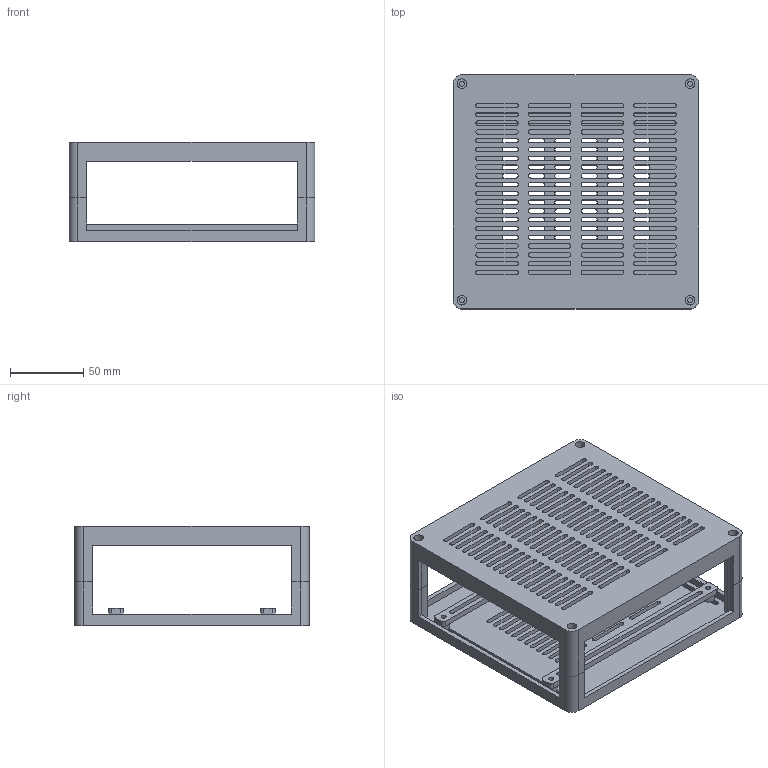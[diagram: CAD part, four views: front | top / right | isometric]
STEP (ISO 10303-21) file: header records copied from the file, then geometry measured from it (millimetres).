
FILE_DESCRIPTION(('Open CASCADE Model'),'2;1');
FILE_NAME('Open CASCADE Shape Model','2026-09-27T09:58:22',('Author'),( 'Open CASCADE'),'Open CASCADE STEP processor 7.9','Open CASCADE 7.9' ,'Unknown');
FILE_SCHEMA(('AUTOMOTIVE_DESIGN { 1 0 10303 214 1 1 1 1 }'));
Length unit declared in the file: millimetre
Products named in the file (9): Open CASCADE STEP translator 7.9 1; Open CASCADE STEP translator 7.9 1.1; Open CASCADE STEP translator 7.9 1.2; Open CASCADE STEP translator 7.9 1.3; Open CASCADE STEP translator 7.9 1.4; Open CASCADE STEP translator 7.9 1.5; Open CASCADE STEP translator 7.9 1.6; Open CASCADE STEP translator 7.9 1.7; Open CASCADE STEP translator 7.9 1.8
Assembly tree (8 placements, depth 2):
  Open CASCADE STEP translator 7.9 1
    Open CASCADE STEP translator 7.9 1.1
    Open CASCADE STEP translator 7.9 1.2
    Open CASCADE STEP translator 7.9 1.3
    Open CASCADE STEP translator 7.9 1.4
    Open CASCADE STEP translator 7.9 1.5
    Open CASCADE STEP translator 7.9 1.6
    Open CASCADE STEP translator 7.9 1.7
    Open CASCADE STEP translator 7.9 1.8
Bounding box: 168 x 160 x 68 mm (x, y, z)
Volume: 190379.8 mm3; surface area: 154446.4 mm2
Topology: 8 solids, 8 shells, 628 faces, 1784 edges, 1188 vertices
Faces by surface type: plane 328, cylinder 296, cone 4
Full cylindrical faces by diameter (mm): 2.8 x4, 3.4 x16, 4.2 x4, 6.6 x4, 8 x4
Entity records: 44907 total; most frequent: CARTESIAN_POINT 11551, DIRECTION 5553, ORIENTED_EDGE 3568, PCURVE 3568, DEFINITIONAL_REPRESENTATION 3568, LINE 3036, VECTOR 3036, EDGE_CURVE 1784
